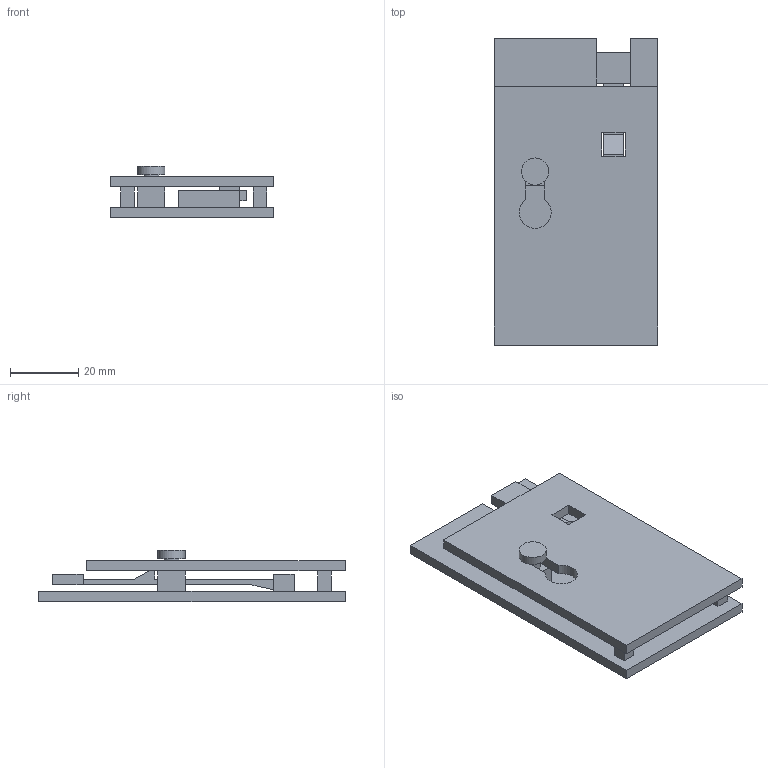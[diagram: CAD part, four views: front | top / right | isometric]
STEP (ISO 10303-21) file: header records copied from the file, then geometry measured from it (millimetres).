
FILE_DESCRIPTION(('Open CASCADE Model'),'2;1');
FILE_NAME('Open CASCADE Shape Model','2026-11-12T17:04:53',('Author'),( 'Open CASCADE'),'Open CASCADE STEP processor 7.8','Open CASCADE 7.8' ,'Unknown');
FILE_SCHEMA(('AUTOMOTIVE_DESIGN { 1 0 10303 214 1 1 1 1 }'));
Length unit declared in the file: millimetre
Products named in the file (3): SNAP_TEST_ONLY; receiver; base
Assembly tree (2 placements, depth 2):
  SNAP_TEST_ONLY
    receiver
    base
Bounding box: 48 x 90 x 15 mm (x, y, z)
Volume: 23546.3 mm3; surface area: 18422.8 mm2
Topology: 2 solids, 2 shells, 60 faces, 150 edges, 100 vertices
Faces by surface type: plane 56, cylinder 4
Full cylindrical faces by diameter (mm): 4.4 x1, 8 x1
Entity records: 3729 total; most frequent: CARTESIAN_POINT 693, DIRECTION 529, LINE 384, VECTOR 384, ORIENTED_EDGE 300, PCURVE 300, DEFINITIONAL_REPRESENTATION 300, EDGE_CURVE 150
